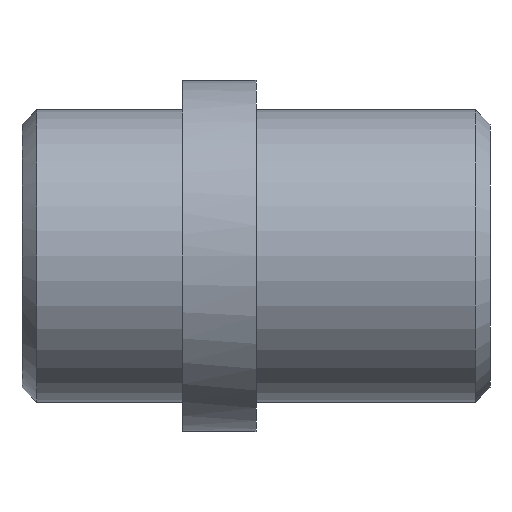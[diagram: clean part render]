
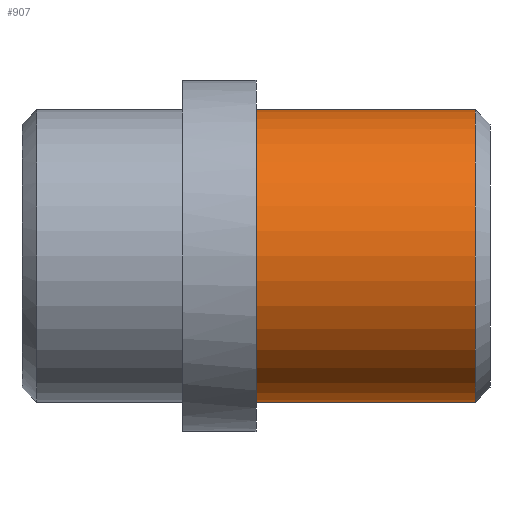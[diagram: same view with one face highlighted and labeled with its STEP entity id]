
A CAD part, front view. The second image highlights one B-rep face of the part: STEP entity #907.
In plain terms, the highlighted cylindrical face has radius 10 mm (diameter 20 mm), a partial arc.
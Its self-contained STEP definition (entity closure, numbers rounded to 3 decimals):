
#773=CARTESIAN_POINT('Vertex',(0.,0.,-10.)) ;
#778=CARTESIAN_POINT('Axis2P3D Location',(0.,0.,0.)) ;
#782=CARTESIAN_POINT('Vertex',(0.,-10.,0.)) ;
#785=CARTESIAN_POINT('Axis2P3D Location',(0.,0.,0.)) ;
#789=CARTESIAN_POINT('Vertex',(0.,0.,10.)) ;
#813=CARTESIAN_POINT('Vertex',(15.,0.,10.)) ;
#820=CARTESIAN_POINT('Vertex',(15.,0.,-10.)) ;
#849=CARTESIAN_POINT('Axis2P3D Location',(15.,0.,0.)) ;
#853=CARTESIAN_POINT('Vertex',(15.,-10.,0.)) ;
#856=CARTESIAN_POINT('Axis2P3D Location',(15.,0.,0.)) ;
#875=CARTESIAN_POINT('Line Origine',(16.,0.,10.)) ;
#880=CARTESIAN_POINT('Line Origine',(16.,0.,-10.)) ;
#894=CARTESIAN_POINT('Axis2P3D Location',(16.,0.,0.)) ;
#779=DIRECTION('Axis2P3D Direction',(1.,0.,-0.)) ;
#786=DIRECTION('Axis2P3D Direction',(1.,0.,-0.)) ;
#850=DIRECTION('Axis2P3D Direction',(-1.,0.,0.)) ;
#857=DIRECTION('Axis2P3D Direction',(-1.,0.,0.)) ;
#876=DIRECTION('Vector Direction',(-1.,0.,0.)) ;
#881=DIRECTION('Vector Direction',(-1.,0.,0.)) ;
#895=DIRECTION('Axis2P3D Direction',(-1.,-0.,-0.)) ;
#896=DIRECTION('Axis2P3D XDirection',(0.,0.,-1.)) ;
#780=AXIS2_PLACEMENT_3D('Circle Axis2P3D',#778,#779,$) ;
#787=AXIS2_PLACEMENT_3D('Circle Axis2P3D',#785,#786,$) ;
#851=AXIS2_PLACEMENT_3D('Circle Axis2P3D',#849,#850,$) ;
#858=AXIS2_PLACEMENT_3D('Circle Axis2P3D',#856,#857,$) ;
#897=AXIS2_PLACEMENT_3D('Cylinder Axis2P3D',#894,#895,#896) ;
#900=ORIENTED_EDGE('',*,*,#884,.T.) ;
#901=ORIENTED_EDGE('',*,*,#860,.F.) ;
#902=ORIENTED_EDGE('',*,*,#855,.F.) ;
#903=ORIENTED_EDGE('',*,*,#879,.T.) ;
#904=ORIENTED_EDGE('',*,*,#791,.T.) ;
#905=ORIENTED_EDGE('',*,*,#784,.T.) ;
#877=VECTOR('Line Direction',#876,1.) ;
#882=VECTOR('Line Direction',#881,1.) ;
#907=ADVANCED_FACE('354-14X32',(#906),#898,.T.) ;
#781=CIRCLE('generated circle',#780,10.) ;
#788=CIRCLE('generated circle',#787,10.) ;
#852=CIRCLE('generated circle',#851,10.) ;
#859=CIRCLE('generated circle',#858,10.) ;
#898=CYLINDRICAL_SURFACE('generated cylinder',#897,10.) ;
#784=EDGE_CURVE('',#783,#774,#781,.T.) ;
#791=EDGE_CURVE('',#790,#783,#788,.T.) ;
#855=EDGE_CURVE('',#814,#854,#852,.F.) ;
#860=EDGE_CURVE('',#854,#821,#859,.F.) ;
#879=EDGE_CURVE('',#814,#790,#878,.T.) ;
#884=EDGE_CURVE('',#774,#821,#883,.F.) ;
#899=EDGE_LOOP('',(#900,#901,#902,#903,#904,#905)) ;
#906=FACE_OUTER_BOUND('',#899,.T.) ;
#878=LINE('Line',#875,#877) ;
#883=LINE('Line',#880,#882) ;
#774=VERTEX_POINT('',#773) ;
#783=VERTEX_POINT('',#782) ;
#790=VERTEX_POINT('',#789) ;
#814=VERTEX_POINT('',#813) ;
#821=VERTEX_POINT('',#820) ;
#854=VERTEX_POINT('',#853) ;
